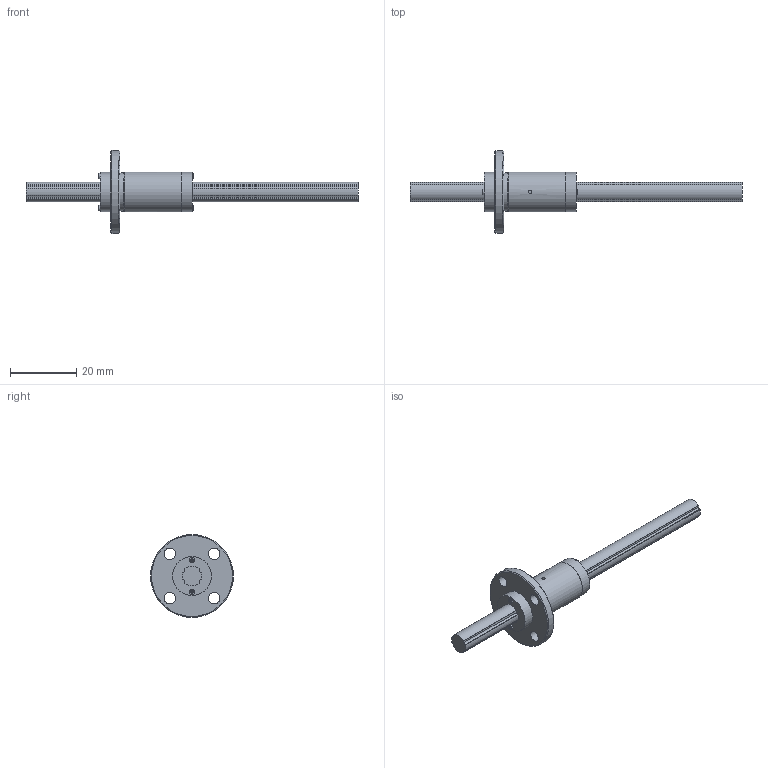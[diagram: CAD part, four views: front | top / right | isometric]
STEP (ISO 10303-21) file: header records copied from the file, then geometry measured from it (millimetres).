
FILE_DESCRIPTION(/* description */ ('STEP AP214'),/* implementation_level */ '2;1');
FILE_NAME(/* name */ 'LF6XL+100L(00)',/* time_stamp */ '2024-09-05T14:43:24+02:00',/* author */ ('License CC BY-ND 4.0'),/* organization */ ('CADENAS'),/* preprocessor_version */ 'ST-DEVELOPER v19.3',/* originating_system */ 'PARTsolutions',/* authorisation */ ' ');
FILE_SCHEMA (('AUTOMOTIVE_DESIGN {1 0 10303 214 3 1 1}'));
Length unit declared in the file: millimetre
Products named in the file (3): LF6XL+100L(00); 1LT6XL 100Shaft; 1LF6XL Cylindar
Assembly tree (2 placements, depth 2):
  LF6XL+100L(00)
    1LT6XL 100Shaft
    1LF6XL Cylindar
Bounding box: 100 x 25 x 25 mm (x, y, z)
Volume: 5978.9 mm3; surface area: 4628.1 mm2
Topology: 2 solids, 2 shells, 121 faces, 323 edges, 215 vertices
Faces by surface type: plane 70, cylinder 47, cone 4
Full cylindrical faces by diameter (mm): 1 x2, 1.6 x4, 3.4 x4, 11.7 x1, 11.8 x2, 12 x1, 25 x1
Entity records: 3753 total; most frequent: CARTESIAN_POINT 668, DIRECTION 632, ORIENTED_EDGE 592, EDGE_CURVE 296, AXIS2_PLACEMENT_3D 216, VERTEX_POINT 208, LINE 200, VECTOR 200
